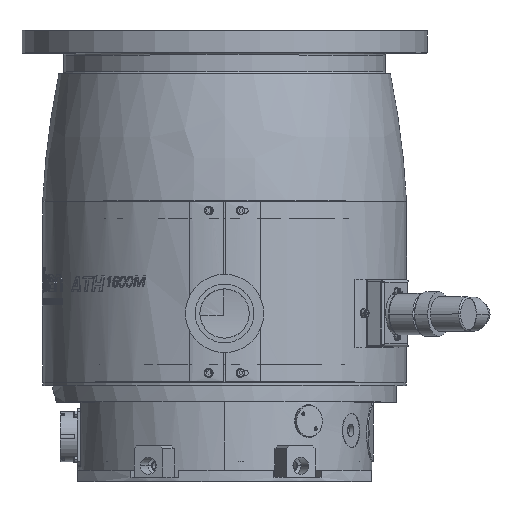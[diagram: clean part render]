
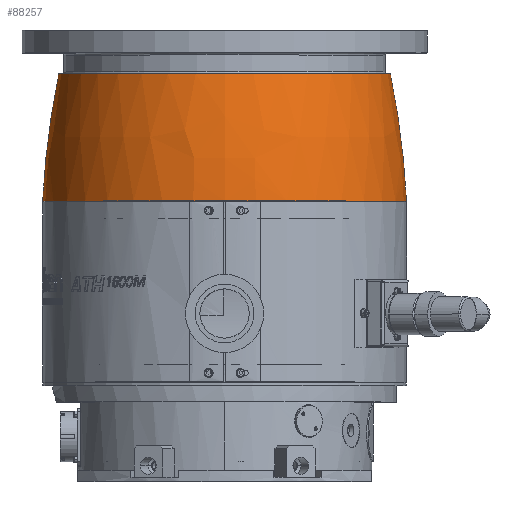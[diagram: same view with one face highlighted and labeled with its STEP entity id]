
A CAD part, top view. The second image highlights one B-rep face of the part: STEP entity #88257.
In plain terms, the highlighted free-form (B-spline) face has degree [3, 3] with [7, 4] control points.
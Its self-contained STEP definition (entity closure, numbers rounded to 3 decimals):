
#30727=CARTESIAN_POINT('',(0.,189.32,0.));
#30728=DIRECTION('',(0.,-1.,0.));
#30729=DIRECTION('',(1.,0.,0.));
#30730=AXIS2_PLACEMENT_3D('',#30727,#30728,#30729);
#30737=CARTESIAN_POINT('',(-471.25,159.02,0.));
#30738=DIRECTION('',(0.,0.,1.));
#30739=DIRECTION('',(0.999,0.05,0.));
#30740=AXIS2_PLACEMENT_3D('',#30737,#30738,#30739);
#30742=CARTESIAN_POINT('',(471.25,159.02,0.));
#30743=DIRECTION('',(0.,0.,-1.));
#30744=DIRECTION('',(-0.999,0.05,0.));
#30745=AXIS2_PLACEMENT_3D('',#30742,#30743,#30744);
#30766=CARTESIAN_POINT('',(0.,278.83,0.));
#30767=DIRECTION('',(0.,-1.,0.));
#30768=DIRECTION('',(1.,0.,0.));
#30769=AXIS2_PLACEMENT_3D('',#30766,#30767,#30768);
#54548=CARTESIAN_POINT('',(116.667,278.83,
0.));
#54549=CARTESIAN_POINT('',(-116.667,278.83,0.));
#54550=VERTEX_POINT('',#54548);
#54551=VERTEX_POINT('',#54549);
#54552=CARTESIAN_POINT('',(127.985,189.32,
0.));
#54553=CARTESIAN_POINT('',(-127.985,189.32,
0.));
#54554=VERTEX_POINT('',#54552);
#54555=VERTEX_POINT('',#54553);
#88219=CARTESIAN_POINT('',(116.074,280.599,
-7.303));
#88220=CARTESIAN_POINT('',(122.412,249.911,
-7.701));
#88221=CARTESIAN_POINT('',(126.335,218.819,
-7.948));
#88222=CARTESIAN_POINT('',(127.821,187.516,
-8.042));
#88223=CARTESIAN_POINT('',(120.568,280.599,64.129));
#88224=CARTESIAN_POINT('',(127.151,249.911,67.63));
#88225=CARTESIAN_POINT('',(131.227,218.819,69.798));
#88226=CARTESIAN_POINT('',(132.77,187.516,70.619));
#88227=CARTESIAN_POINT('',(71.573,280.599,116.303));
#88228=CARTESIAN_POINT('',(75.481,249.911,122.654));
#88229=CARTESIAN_POINT('',(77.9,218.819,126.585));
#88230=CARTESIAN_POINT('',(78.816,187.516,128.073));
#88231=CARTESIAN_POINT('',(0.,280.599,
116.303));
#88232=CARTESIAN_POINT('',(0.,249.911,
122.654));
#88233=CARTESIAN_POINT('',(0.,218.819,
126.585));
#88234=CARTESIAN_POINT('',(0.,187.516,
128.073));
#88235=CARTESIAN_POINT('',(-71.573,280.599,
116.303));
#88236=CARTESIAN_POINT('',(-75.481,249.911,
122.654));
#88237=CARTESIAN_POINT('',(-77.9,218.819,
126.585));
#88238=CARTESIAN_POINT('',(-78.816,187.516,
128.073));
#88239=CARTESIAN_POINT('',(-120.568,280.599,
64.129));
#88240=CARTESIAN_POINT('',(-127.151,249.911,
67.63));
#88241=CARTESIAN_POINT('',(-131.227,218.819,
69.798));
#88242=CARTESIAN_POINT('',(-132.77,187.516,
70.619));
#88243=CARTESIAN_POINT('',(-116.074,280.599,
-7.303));
#88244=CARTESIAN_POINT('',(-122.412,249.911,
-7.701));
#88245=CARTESIAN_POINT('',(-126.335,218.819,
-7.948));
#88246=CARTESIAN_POINT('',(-127.821,187.516,
-8.042));
#88247=(BOUNDED_SURFACE()B_SPLINE_SURFACE(3,3,((#88219,#88220,#88221,#88222),(
#88223,#88224,#88225,#88226),(#88227,#88228,#88229,#88230),(#88231,#88232,
#88233,#88234),(#88235,#88236,#88237,#88238),(#88239,#88240,#88241,#88242),(
#88243,#88244,#88245,#88246)),.UNSPECIFIED.,.F.,.F.,.F.)B_SPLINE_SURFACE_WITH_KNOTS((4,3,4),(4,4),(0.,1.,2.),(0.,1.),.UNSPECIFIED.)GEOMETRIC_REPRESENTATION_ITEM()RATIONAL_B_SPLINE_SURFACE(((1.189,1.187,
1.187,1.189),(0.939,0.937,
0.937,0.939),(0.939,0.937,
0.937,0.939),(1.189,1.187,
1.187,1.189),(0.939,0.937,
0.937,0.939),(0.939,0.937,
0.937,0.939),(1.189,1.187,
1.187,1.189)))REPRESENTATION_ITEM('')SURFACE());
#88249=ORIENTED_EDGE('',*,*,#88248,.F.);
#88250=ORIENTED_EDGE('',*,*,#88209,.T.);
#88252=ORIENTED_EDGE('',*,*,#88251,.T.);
#88254=ORIENTED_EDGE('',*,*,#88253,.F.);
#88255=EDGE_LOOP('',(#88249,#88250,#88252,#88254));
#88256=FACE_OUTER_BOUND('',#88255,.F.);
#88257=ADVANCED_FACE('',(#88256),#88247,.T.);
#30731=CIRCLE('',#30730,127.985);
#30741=CIRCLE('',#30740,600.);
#30746=CIRCLE('',#30745,600.);
#30770=CIRCLE('',#30769,116.667);
#88209=EDGE_CURVE('',#54554,#54555,#30731,.T.);
#88248=EDGE_CURVE('',#54554,#54550,#30741,.T.);
#88251=EDGE_CURVE('',#54555,#54551,#30746,.T.);
#88253=EDGE_CURVE('',#54550,#54551,#30770,.T.);
